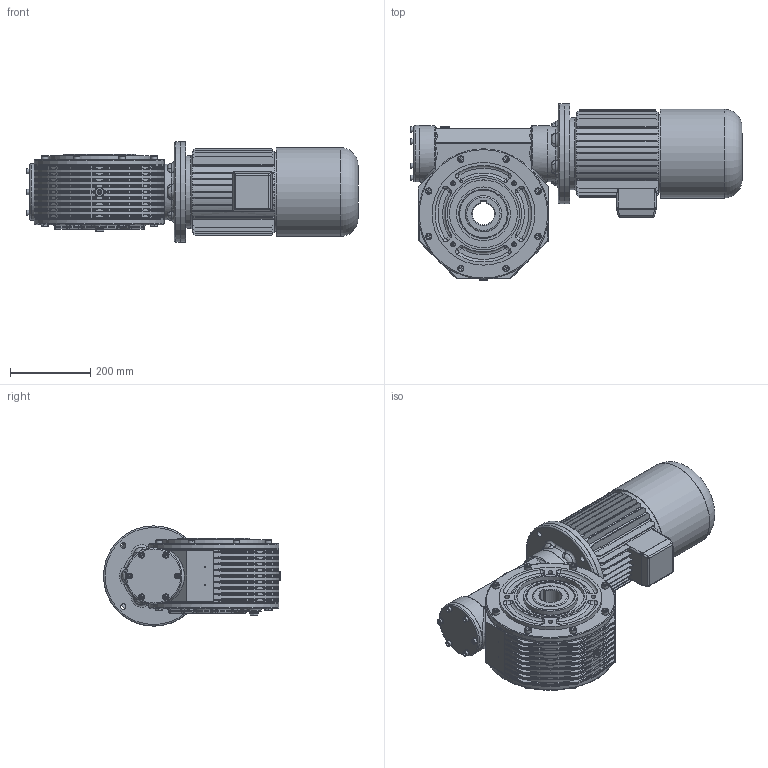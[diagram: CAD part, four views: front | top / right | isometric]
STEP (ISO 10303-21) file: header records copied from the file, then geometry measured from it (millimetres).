
FILE_DESCRIPTION((''),'2;1');
FILE_NAME('Y:\Archivi Inventor\Prog_01\GRAND_70\complessivi\Figurini\mrv70 sito\112 autofrenante\MRV70_FP2_112_B5.stp','2013-02-08T14:57:46',('tech3'),(''),'Autodesk Inventor 2013','Autodesk Inventor 2013','');
FILE_SCHEMA(('AUTOMOTIVE_DESIGN { 1 0 10303 214 1 1 1 1 }'));
Length unit declared in the file: millimetre
Products named in the file (19): MRV70_100L_112M_B5; MRV70 figurino; 0107001-A0 figurino; 0107008.A0 figurino; 0107029; 0107009; 0107028; DIN 3760 AS AS - 90 x 120 x 12 - NBR; UNI 8839 A 8; Guarnizione 3_8 GAS; Tappo 3_8 GAS_esagn_incsst; DIN EN ISO 4762 M8 x 20; DIN EN 24017 M10 x 20; Tappo3_8 GAS; 0107002-A0-FIG; DIN EN ISO 4762 M10 x 20; 0107004-A0-FIG; 0107006; motori B5 brake 112
Assembly tree (54 placements, depth 3):
  MRV70_100L_112M_B5
    MRV70 figurino
      0107001-A0 figurino
      0107008.A0 figurino
      0107029  x2
      0107009
      0107028  x2
      DIN 3760 AS AS - 90 x 120 x 12 - NBR  x2
      UNI 8839 A 8  x6
      Guarnizione 3_8 GAS  x3
      Tappo 3_8 GAS_esagn_incsst  x2
      DIN EN ISO 4762 M8 x 20  x6
      DIN EN 24017 M10 x 20  x8
      Tappo3_8 GAS
      0107002-A0-FIG
      DIN EN ISO 4762 M10 x 20  x8
      0107004-A0-FIG
    0107006
    DIN EN ISO 4762 M8 x 20  x6
    motori B5 brake 112
Bounding box: 827.4 x 441 x 250 mm (x, y, z)
Volume: 26240136.7 mm3; surface area: 2221886.9 mm2
Topology: 54 solids, 54 shells, 2101 faces, 5026 edges, 3001 vertices
Faces by surface type: plane 891, cylinder 606, torus 228, bspline 221, cone 144, sphere 11
Full cylindrical faces by diameter (mm): 2 x2, 5 x1, 6.647 x12, 8 x14, 8.376 x16, 8.5 x24, 10 x16, 10.5 x16, 11 x16, 11.835 x4, 13 x12, 13.046 x1, 14 x8, 14.63 x8, 14.95 x3, 16 x8, 16.3 x3, 16.5 x2, 20 x6, 22 x6, 24 x10, 25 x1, 28 x1, 61 x1, 75 x1, 90 x4, 97.2 x2, 100 x6, 114 x2, 120 x4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
Entity records: 57342 total; most frequent: CARTESIAN_POINT 20585, DIRECTION 7626, ORIENTED_EDGE 7044, EDGE_CURVE 3522, AXIS2_PLACEMENT_3D 3126, VERTEX_POINT 2255, EDGE_LOOP 2017, CIRCLE 1646
